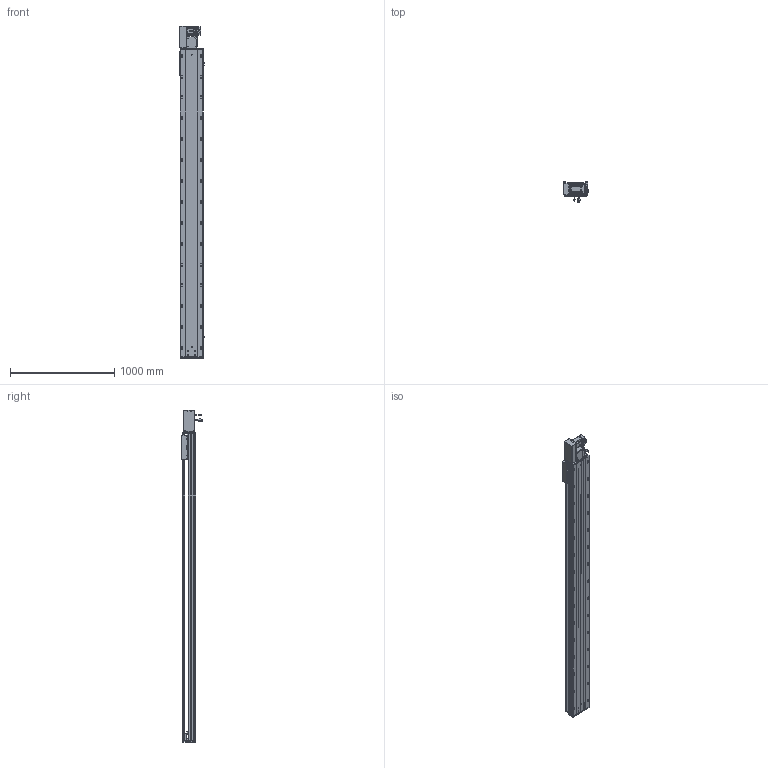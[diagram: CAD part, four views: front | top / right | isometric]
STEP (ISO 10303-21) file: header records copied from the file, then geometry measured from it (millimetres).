
FILE_DESCRIPTION (( 'STEP AP203' ), '1' );
FILE_NAME ('RY220-T-300-LK.SLDASM_2600.step', '2022-07-25T08:16:04', ( '' ), ( '' ), 'SwSTEP 2.0', 'SolidWorks 2016', '' );
FILE_SCHEMA (( 'CONFIG_CONTROL_DESIGN' ));
Length unit declared in the file: millimetre
Products named in the file (14): RY220-俋离672覜茼んえ; RY220-T菁釱-300_2600; 滅袉蝶18-15; RY220-T-300-LK.SLDASM_2600; 怢湛750W_ECMA-CX0807ES; RY220圉猾敕々湍臏賑輸; RY220-同步轮副支撑座6304×2; RY220-T-300-奻裔啣_2600; RY220-T-蛌殏萇儂假蚾啣(750W); RY220-T-湍謫欶(鍼踢); RY220翋肮祭謫裔啣; 110A-T-肮祭謫釱傷裔; 覜茼ん672; RY220翋肮祭謫釱
Assembly tree (18 placements, depth 2):
  RY220-T-300-LK.SLDASM_2600
    RY220-T菁釱-300_2600
    RY220翋肮祭謫釱
    覜茼ん672  x3
    RY220圉猾敕々湍臏賑輸
    RY220-T-300-奻裔啣_2600
    RY220-俋离672覜茼んえ
    滅袉蝶18-15  x3
    RY220翋肮祭謫裔啣  x2
    110A-T-肮祭謫釱傷裔
    怢湛750W_ECMA-CX0807ES
    RY220-T-湍謫欶(鍼踢)
    RY220-T-蛌殏萇儂假蚾啣(750W)
    RY220-同步轮副支撑座6304×2
Bounding box: 239.7 x 198.77 x 3179 mm (x, y, z)
Volume: 22616858.7 mm3; surface area: 6954828 mm2
Topology: 19 solids, 19 shells, 2944 faces, 8139 edges, 5106 vertices
Faces by surface type: cylinder 1440, plane 1069, cone 353, bspline 56, sphere 16, torus 10
Entity records: 98099 total; most frequent: CARTESIAN_POINT 27705, ORIENTED_EDGE 14554, DIRECTION 14012, EDGE_CURVE 7277, AXIS2_PLACEMENT_3D 5042, VERTEX_POINT 4730, VECTOR 3928, LINE 3928
